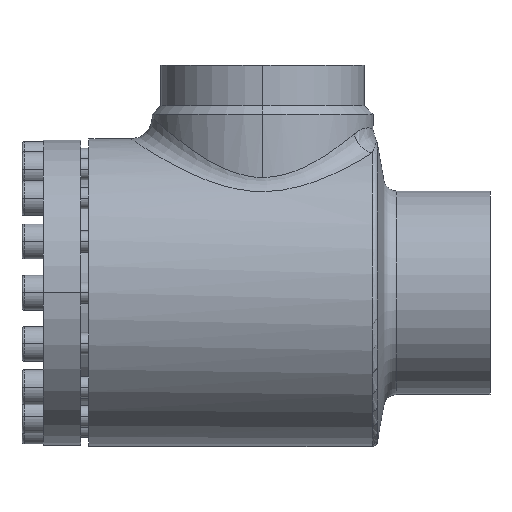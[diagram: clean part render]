
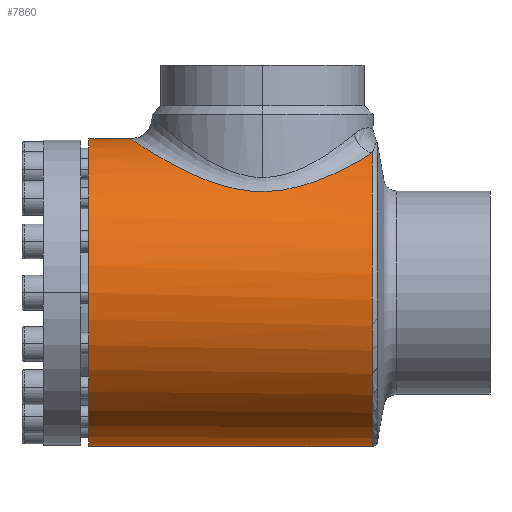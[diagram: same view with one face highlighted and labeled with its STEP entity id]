
A CAD part, left-side view. The second image highlights one B-rep face of the part: STEP entity #7860.
In plain terms, the highlighted cylindrical face has radius 57.5 mm (diameter 115 mm), a partial arc.
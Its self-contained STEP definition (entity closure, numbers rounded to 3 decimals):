
#1472 = VERTEX_POINT ( 'NONE', #4774 ) ;
#1608 = EDGE_CURVE ( 'NONE', #2629, #1472, #4846, .T. ) ;
#2051 = LINE ( 'NONE', #2052, #2053 ) ;
#2052 = CARTESIAN_POINT ( 'NONE',  ( 0., -111., 57.5 ) ) ;
#2053 = VECTOR ( 'NONE', #2054, 1000. ) ;
#2054 = DIRECTION ( 'NONE',  ( 0., 1., 0. ) ) ;
#2235 = B_SPLINE_CURVE_WITH_KNOTS ( 'NONE', 3,
 ( #2236, #2237, #2238, #2239, #2240, #2241, #2242, #2243, #2244, #2246, #2247, #2248, #2249, #2250, #2251, #2252, #2253, #2254, #2255, #2256, #2257, #2258, #2259, #2260, #2261, #2262, #2263, #2264, #2265, #2266, #2267, #2268, #2269, #2270, #2271, #2272, #2273, #2274, #2275, #2276, #2277, #2278, #2279, #2280, #2281, #2282, #2283, #2284, #2285, #2286, #2287, #2288, #2289, #2290, #2291, #2292, #2293, #2294, #2295, #2296, #2297, #2298 ),
 .UNSPECIFIED., .F., .F.,
 ( 4, 2, 2, 2, 2, 2, 2, 2, 2, 2, 2, 2, 2, 2, 2, 2, 2, 2, 2, 2, 2, 2, 2, 2, 2, 2, 2, 2, 2, 2, 4 ),
 ( 0., 0.008, 0.016, 0.017, 0.019, 0.023, 0.031, 0.035, 0.039, 0.047, 0.049, 0.05, 0.054, 0.058, 0.06, 0.062, 0.07, 0.074, 0.078, 0.085, 0.089, 0.091, 0.093, 0.101, 0.105, 0.107, 0.109, 0.116, 0.118, 0.12, 0.124 ),
 .UNSPECIFIED. ) ;
#2236 = CARTESIAN_POINT ( 'NONE',  ( -24.174, -105.892, 52.171 ) ) ;
#2237 = CARTESIAN_POINT ( 'NONE',  ( -26.132, -104.39, 51.264 ) ) ;
#2238 = CARTESIAN_POINT ( 'NONE',  ( -27.915, -102.76, 50.305 ) ) ;
#2239 = CARTESIAN_POINT ( 'NONE',  ( -31.195, -99.268, 48.34 ) ) ;
#2240 = CARTESIAN_POINT ( 'NONE',  ( -32.691, -97.405, 47.333 ) ) ;
#2241 = CARTESIAN_POINT ( 'NONE',  ( -34.397, -94.927, 46.079 ) ) ;
#2242 = CARTESIAN_POINT ( 'NONE',  ( -34.73, -94.424, 45.829 ) ) ;
#2243 = CARTESIAN_POINT ( 'NONE',  ( -35.379, -93.402, 45.329 ) ) ;
#2244 = CARTESIAN_POINT ( 'NONE',  ( -35.695, -92.884, 45.08 ) ) ;
#2246 = CARTESIAN_POINT ( 'NONE',  ( -36.613, -91.317, 44.344 ) ) ;
#2247 = CARTESIAN_POINT ( 'NONE',  ( -37.186, -90.253, 43.863 ) ) ;
#2248 = CARTESIAN_POINT ( 'NONE',  ( -38.793, -86.998, 42.466 ) ) ;
#2249 = CARTESIAN_POINT ( 'NONE',  ( -39.716, -84.747, 41.594 ) ) ;
#2250 = CARTESIAN_POINT ( 'NONE',  ( -40.882, -81.225, 40.437 ) ) ;
#2251 = CARTESIAN_POINT ( 'NONE',  ( -41.234, -80.027, 40.077 ) ) ;
#2252 = CARTESIAN_POINT ( 'NONE',  ( -41.862, -77.576, 39.421 ) ) ;
#2253 = CARTESIAN_POINT ( 'NONE',  ( -42.138, -76.319, 39.125 ) ) ;
#2254 = CARTESIAN_POINT ( 'NONE',  ( -42.831, -72.529, 38.37 ) ) ;
#2255 = CARTESIAN_POINT ( 'NONE',  ( -43.12, -69.961, 38.038 ) ) ;
#2256 = CARTESIAN_POINT ( 'NONE',  ( -43.257, -66.692, 37.883 ) ) ;
#2257 = CARTESIAN_POINT ( 'NONE',  ( -43.273, -66.034, 37.864 ) ) ;
#2258 = CARTESIAN_POINT ( 'NONE',  ( -43.282, -64.718, 37.854 ) ) ;
#2259 = CARTESIAN_POINT ( 'NONE',  ( -43.275, -64.063, 37.862 ) ) ;
#2260 = CARTESIAN_POINT ( 'NONE',  ( -43.219, -62.103, 37.926 ) ) ;
#2261 = CARTESIAN_POINT ( 'NONE',  ( -43.137, -60.806, 38.02 ) ) ;
#2262 = CARTESIAN_POINT ( 'NONE',  ( -42.884, -58.229, 38.305 ) ) ;
#2263 = CARTESIAN_POINT ( 'NONE',  ( -42.713, -56.95, 38.496 ) ) ;
#2264 = CARTESIAN_POINT ( 'NONE',  ( -42.391, -55.043, 38.85 ) ) ;
#2265 = CARTESIAN_POINT ( 'NONE',  ( -42.272, -54.408, 38.979 ) ) ;
#2266 = CARTESIAN_POINT ( 'NONE',  ( -42.014, -53.15, 39.257 ) ) ;
#2267 = CARTESIAN_POINT ( 'NONE',  ( -41.875, -52.528, 39.406 ) ) ;
#2268 = CARTESIAN_POINT ( 'NONE',  ( -41.13, -49.446, 40.191 ) ) ;
#2269 = CARTESIAN_POINT ( 'NONE',  ( -40.378, -47.077, 40.957 ) ) ;
#2270 = CARTESIAN_POINT ( 'NONE',  ( -39.022, -43.642, 42.237 ) ) ;
#2271 = CARTESIAN_POINT ( 'NONE',  ( -38.532, -42.517, 42.685 ) ) ;
#2272 = CARTESIAN_POINT ( 'NONE',  ( -37.473, -40.304, 43.618 ) ) ;
#2273 = CARTESIAN_POINT ( 'NONE',  ( -36.908, -39.223, 44.098 ) ) ;
#2274 = CARTESIAN_POINT ( 'NONE',  ( -35.115, -36.073, 45.559 ) ) ;
#2275 = CARTESIAN_POINT ( 'NONE',  ( -33.785, -34.085, 46.562 ) ) ;
#2276 = CARTESIAN_POINT ( 'NONE',  ( -31.574, -31.259, 48.064 ) ) ;
#2277 = CARTESIAN_POINT ( 'NONE',  ( -30.801, -30.343, 48.564 ) ) ;
#2278 = CARTESIAN_POINT ( 'NONE',  ( -29.582, -29.009, 49.309 ) ) ;
#2279 = CARTESIAN_POINT ( 'NONE',  ( -29.166, -28.57, 49.557 ) ) ;
#2280 = CARTESIAN_POINT ( 'NONE',  ( -28.313, -27.708, 50.049 ) ) ;
#2281 = CARTESIAN_POINT ( 'NONE',  ( -27.875, -27.282, 50.294 ) ) ;
#2282 = CARTESIAN_POINT ( 'NONE',  ( -25.646, -25.201, 51.504 ) ) ;
#2283 = CARTESIAN_POINT ( 'NONE',  ( -23.737, -23.688, 52.419 ) ) ;
#2284 = CARTESIAN_POINT ( 'NONE',  ( -20.66, -21.659, 53.671 ) ) ;
#2285 = CARTESIAN_POINT ( 'NONE',  ( -19.599, -21.023, 54.069 ) ) ;
#2286 = CARTESIAN_POINT ( 'NONE',  ( -17.948, -20.134, 54.63 ) ) ;
#2287 = CARTESIAN_POINT ( 'NONE',  ( -17.388, -19.848, 54.811 ) ) ;
#2288 = CARTESIAN_POINT ( 'NONE',  ( -16.247, -19.3, 55.16 ) ) ;
#2289 = CARTESIAN_POINT ( 'NONE',  ( -15.665, -19.037, 55.328 ) ) ;
#2290 = CARTESIAN_POINT ( 'NONE',  ( -12.734, -17.796, 56.125 ) ) ;
#2291 = CARTESIAN_POINT ( 'NONE',  ( -10.302, -17.028, 56.627 ) ) ;
#2292 = CARTESIAN_POINT ( 'NONE',  ( -7.142, -16.371, 57.058 ) ) ;
#2293 = CARTESIAN_POINT ( 'NONE',  ( -6.505, -16.254, 57.135 ) ) ;
#2294 = CARTESIAN_POINT ( 'NONE',  ( -5.216, -16.054, 57.267 ) ) ;
#2295 = CARTESIAN_POINT ( 'NONE',  ( -4.563, -15.969, 57.322 ) ) ;
#2296 = CARTESIAN_POINT ( 'NONE',  ( -2.602, -15.766, 57.456 ) ) ;
#2297 = CARTESIAN_POINT ( 'NONE',  ( -1.298, -15.7, 57.5 ) ) ;
#2298 = CARTESIAN_POINT ( 'NONE',  ( 0., -15.7, 57.5 ) ) ;
#2378 = EDGE_CURVE ( 'NONE', #4518, #9310, #2235, .T. ) ;
#2417 = CARTESIAN_POINT ( 'NONE',  ( 0., -105.892, -57.5 ) ) ;
#2418 = FACE_OUTER_BOUND ( 'NONE', #7732, .T. ) ;
#2419 = CYLINDRICAL_SURFACE ( 'NONE', #2420, 57.5 ) ;
#2420 = AXIS2_PLACEMENT_3D ( 'NONE', #2421, #2422, #2423 ) ;
#2421 = CARTESIAN_POINT ( 'NONE',  ( 0., -111., 0. ) ) ;
#2422 = DIRECTION ( 'NONE',  ( 0., 1., 0. ) ) ;
#2423 = DIRECTION ( 'NONE',  ( 0., 0., 1. ) ) ;
#2629 = VERTEX_POINT ( 'NONE', #2417 ) ;
#2909 = CIRCLE ( 'NONE', #2910, 57.5 ) ;
#2910 = AXIS2_PLACEMENT_3D ( 'NONE', #2911, #2912, #2913 ) ;
#2911 = CARTESIAN_POINT ( 'NONE',  ( 0., 0., 0. ) ) ;
#2912 = DIRECTION ( 'NONE',  ( 0., 1., 0. ) ) ;
#2913 = DIRECTION ( 'NONE',  ( 0., 0., 1. ) ) ;
#3145 = CARTESIAN_POINT ( 'NONE',  ( -24.174, -105.892, 52.171 ) ) ;
#3240 = CIRCLE ( 'NONE', #3241, 57.5 ) ;
#3241 = AXIS2_PLACEMENT_3D ( 'NONE', #3242, #3243, #3244 ) ;
#3242 = CARTESIAN_POINT ( 'NONE',  ( 0., -105.892, 0. ) ) ;
#3243 = DIRECTION ( 'NONE',  ( 0., 1., 0. ) ) ;
#3244 = DIRECTION ( 'NONE',  ( 0., 0., -1. ) ) ;
#3354 = EDGE_CURVE ( 'NONE', #1472, #10348, #2909, .T. ) ;
#3630 = ORIENTED_EDGE ( 'NONE', *, *, #3354, .F. ) ;
#4041 = ORIENTED_EDGE ( 'NONE', *, *, #2378, .T. ) ;
#4369 = CARTESIAN_POINT ( 'NONE',  ( 0., 0., 57.5 ) ) ;
#4518 = VERTEX_POINT ( 'NONE', #3145 ) ;
#4720 = EDGE_CURVE ( 'NONE', #2629, #4518, #3240, .T. ) ;
#4774 = CARTESIAN_POINT ( 'NONE',  ( 0., 0., -57.5 ) ) ;
#4846 = LINE ( 'NONE', #4847, #4848 ) ;
#4847 = CARTESIAN_POINT ( 'NONE',  ( 0., -111., -57.5 ) ) ;
#4848 = VECTOR ( 'NONE', #4849, 1000. ) ;
#4849 = DIRECTION ( 'NONE',  ( 0., 1., 0. ) ) ;
#5062 = ORIENTED_EDGE ( 'NONE', *, *, #4720, .T. ) ;
#5541 = ORIENTED_EDGE ( 'NONE', *, *, #1608, .F. ) ;
#7732 = EDGE_LOOP ( 'NONE', ( #5541, #5062, #4041, #7751, #3630 ) ) ;
#7751 = ORIENTED_EDGE ( 'NONE', *, *, #9519, .T. ) ;
#7860 = ADVANCED_FACE ( 'NONE', ( #2418 ), #2419, .T. ) ;
#9310 = VERTEX_POINT ( 'NONE', #13602 ) ;
#9519 = EDGE_CURVE ( 'NONE', #9310, #10348, #2051, .T. ) ;
#10348 = VERTEX_POINT ( 'NONE', #4369 ) ;
#13602 = CARTESIAN_POINT ( 'NONE',  ( 0., -15.7, 57.5 ) ) ;
